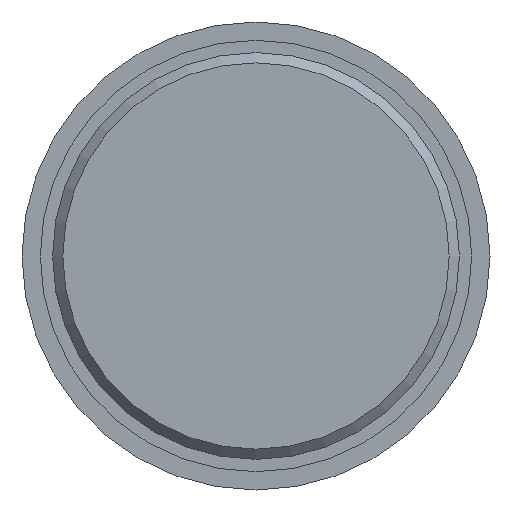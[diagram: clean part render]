
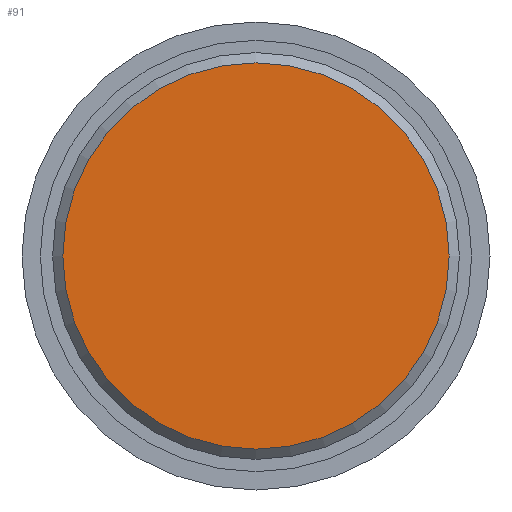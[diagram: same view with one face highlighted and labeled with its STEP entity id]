
A CAD part, front view. The second image highlights one B-rep face of the part: STEP entity #91.
In plain terms, the highlighted planar face has unit normal (0, -1, 0).
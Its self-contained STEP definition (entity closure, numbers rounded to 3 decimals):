
#91 = ADVANCED_FACE( '', ( #138 ), #139, .F. );
#138 = FACE_OUTER_BOUND( '', #193, .T. );
#139 = PLANE( '', #194 );
#193 = EDGE_LOOP( '', ( #308 ) );
#194 = AXIS2_PLACEMENT_3D( '', #309, #310, #311 );
#308 = ORIENTED_EDGE( '', *, *, #359, .T. );
#309 = CARTESIAN_POINT( '', ( 22.702, 0., 0. ) );
#310 = DIRECTION( '', ( 0., 1., 0. ) );
#311 = DIRECTION( '', ( 0., 0., 1. ) );
#359 = EDGE_CURVE( '', #411, #411, #412, .T. );
#411 = VERTEX_POINT( '', #485 );
#412 = CIRCLE( '', #486, 22.702 );
#485 = CARTESIAN_POINT( '', ( 0., 0., -22.702 ) );
#486 = AXIS2_PLACEMENT_3D( '', #538, #539, #540 );
#538 = CARTESIAN_POINT( '', ( 0., 0., 0. ) );
#539 = DIRECTION( '', ( 0., -1., 0. ) );
#540 = DIRECTION( '', ( 0., 0., -1. ) );
